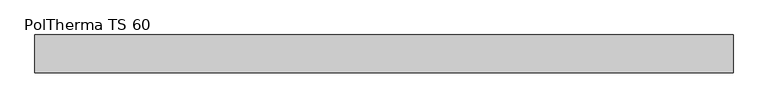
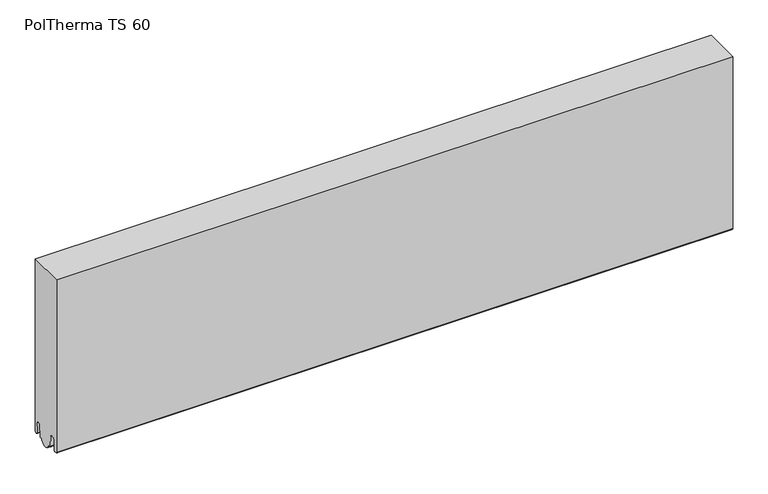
"""IFC4 building model written with IfcOpenShell, lengths in millimetres: plate geometry, Europanels_Poltherma TS_Hz : PolTherma TS 60."""

from ifc_helpers import new_model, si_unit, point, frame, frame_2d, origin, place, context, project, spatial, polyline, circle_curve, trimmed, segment, composite_curve, outline, extrude, source, transform, mapped, element, save


def poltherma_ts_60_cce1f58e(model_context):
    return source(origin(), model_context, "Body", "SweptSolid", [
        extrude(outline(composite_curve([segment(polyline([(-30.0, 300.0), (30.0, 300.0), (30.0, 3.8814338)]), True, "CONTINUOUS"), segment(trimmed(circle_curve(frame_2d((27.6314591, 3.8814338)), 2.3685409), [point((30.0, 3.8814338))], [point((25.2663769, 3.7534806))], False, "CARTESIAN"), True, "CONTINUOUS"), segment(polyline([(25.2663769, 3.7534806), (24.3282622, 21.093556)]), True, "CONTINUOUS"), segment(trimmed(circle_curve(frame_2d((21.0497285, 20.9161842)), 3.2833282), [point((24.3282622, 21.093556))], [point((17.7718427, 21.1051522))], True, "CARTESIAN"), True, "CONTINUOUS"), segment(polyline([(17.7718427, 21.1051522), (16.7366349, 3.1481762)]), True, "CONTINUOUS"), segment(trimmed(circle_curve(frame_2d((14.9895357, 3.2488953)), 1.75), [point((16.7366349, 3.1481762))], [point((14.9895357, 1.4988953))], False, "CARTESIAN"), True, "CONTINUOUS"), segment(polyline([(14.9895357, 1.4988953), (12.5267156, 1.4988953)]), True, "CONTINUOUS"), segment(trimmed(circle_curve(frame_2d((2.7, 3.3524487)), 10.0), [point((12.5267156, 1.4988953))], [point((-7.1267156, 1.4988953))], False, "CARTESIAN"), True, "CONTINUOUS"), segment(polyline([(-7.1267156, 1.4988953), (-10.5507777, 1.4988953)]), True, "CONTINUOUS"), segment(trimmed(circle_curve(frame_2d((-10.5507777, 3.2988953)), 1.8), [point((-10.5507777, 1.4988953))], [point((-12.3477941, 3.1952985))], False, "CARTESIAN"), True, "CONTINUOUS"), segment(polyline([(-12.3477941, 3.1952985), (-13.3842966, 21.1747334)]), True, "CONTINUOUS"), segment(trimmed(circle_curve(frame_2d((-16.3793238, 21.0020721)), 3.0), [point((-13.3842966, 21.1747334))], [point((-16.3793238, 24.0020721))], True, "CARTESIAN"), True, "CONTINUOUS"), segment(polyline([(-16.3793238, 24.0020721), (-19.3209015, 24.0020721)]), True, "CONTINUOUS"), segment(trimmed(circle_curve(frame_2d((-19.3209015, 21.0020721)), 3.0), [point((-19.3209015, 24.0020721))], [point((-22.3165207, 21.1641379))], True, "CARTESIAN"), True, "CONTINUOUS"), segment(polyline([(-22.3165207, 21.1641379), (-23.2780726, 3.3908514)]), True, "CONTINUOUS"), segment(trimmed(circle_curve(frame_2d((-25.2751521, 3.4988953)), 2.0), [point((-23.2780726, 3.3908514))], [point((-25.2751521, 1.4988953))], False, "CARTESIAN"), True, "CONTINUOUS"), segment(polyline([(-25.2751521, 1.4988953), (-28.0, 1.4988953)]), True, "CONTINUOUS"), segment(trimmed(circle_curve(frame_2d((-28.0, 3.4988953)), 2.0), [point((-28.0, 1.4988953))], [point((-30.0, 3.4988953))], False, "CARTESIAN"), True, "CONTINUOUS"), segment(polyline([(-30.0, 3.4988953), (-30.0, 300.0)]), True, "CONTINUOUS")], self_intersect=False)), frame((-550.0, 0.0, 0.0), z_axis=(1.0, 0.0, 0.0), x_axis=(0.0, 1.0, 0.0)), (0.0, 0.0, 1.0), 1100.0),
    ])


if __name__ == "__main__":
    model = new_model("IFC4")
    model_context = context("Model", 3, world=origin())
    ifc_project = project(units=[si_unit("LENGTHUNIT", "METRE", prefix="MILLI")], contexts=[model_context])
    site = spatial("IfcSite", under=ifc_project)
    building = spatial("IfcBuilding", under=site)
    placement = place(None, origin())
    poltherma_ts_60_shape = poltherma_ts_60_cce1f58e(model_context)
    element("IfcPlate", 1, ObjectType="Europanels_Poltherma TS_Hz : PolTherma TS 60", at=placement, inside=building, context=model_context, shape_type="MappedRepresentation", body=[
        mapped(poltherma_ts_60_shape, transform((0.0, 0.0, 0.0), x_axis=(1.0, 0.0, 0.0), y_axis=(0.0, 1.0, 0.0), z_axis=(0.0, 0.0, 1.0))),
    ])
    save(model, "model.ifc")
